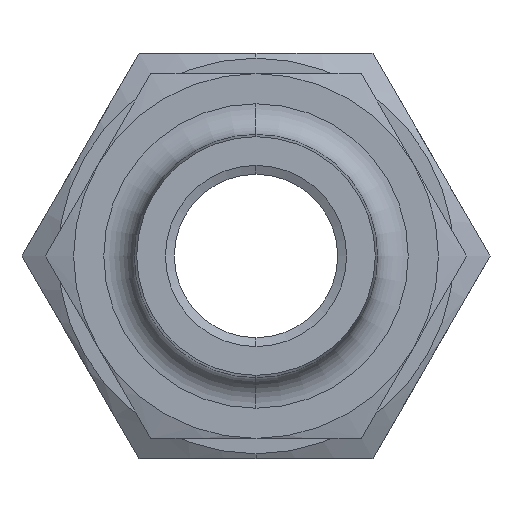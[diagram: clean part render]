
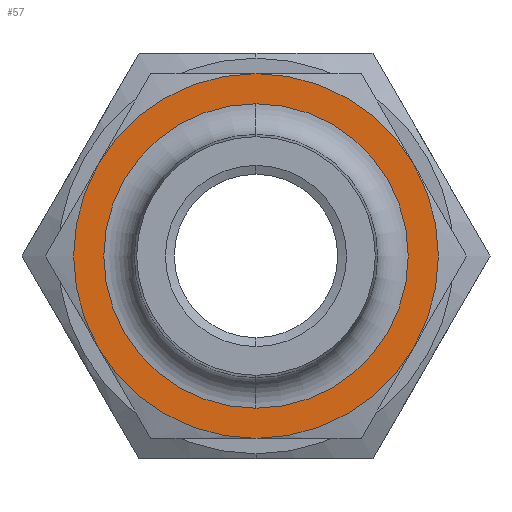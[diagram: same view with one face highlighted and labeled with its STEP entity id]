
A CAD part, left-side view. The second image highlights one B-rep face of the part: STEP entity #57.
In plain terms, the highlighted planar face has unit normal (-1, 0, 0).
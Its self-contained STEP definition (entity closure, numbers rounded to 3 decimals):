
#47 = VERTEX_POINT ( 'NONE', #781 ) ;
#57 = ADVANCED_FACE ( 'NONE', ( #734, #733 ), #736, .F. ) ;
#58 = EDGE_LOOP ( 'NONE', ( #59, #61 ) ) ;
#59 = ORIENTED_EDGE ( 'NONE', *, *, #60, .T. ) ;
#60 = EDGE_CURVE ( 'NONE', #215, #214, #721, .T. ) ;
#61 = ORIENTED_EDGE ( 'NONE', *, *, #213, .T. ) ;
#62 = EDGE_LOOP ( 'NONE', ( #63, #65, #67, #539, #350, #352 ) ) ;
#63 = ORIENTED_EDGE ( 'NONE', *, *, #64, .F. ) ;
#64 = EDGE_CURVE ( 'NONE', #47, #583, #716, .T. ) ;
#65 = ORIENTED_EDGE ( 'NONE', *, *, #66, .F. ) ;
#66 = EDGE_CURVE ( 'NONE', #179, #47, #712, .T. ) ;
#67 = ORIENTED_EDGE ( 'NONE', *, *, #68, .F. ) ;
#68 = EDGE_CURVE ( 'NONE', #599, #179, #707, .T. ) ;
#86 = VERTEX_POINT ( 'NONE', #909 ) ;
#179 = VERTEX_POINT ( 'NONE', #890 ) ;
#213 = EDGE_CURVE ( 'NONE', #214, #215, #1076, .T. ) ;
#214 = VERTEX_POINT ( 'NONE', #1071 ) ;
#215 = VERTEX_POINT ( 'NONE', #1128 ) ;
#349 = EDGE_CURVE ( 'NONE', #86, #599, #1316, .T. ) ;
#350 = ORIENTED_EDGE ( 'NONE', *, *, #351, .T. ) ;
#351 = EDGE_CURVE ( 'NONE', #86, #588, #1303, .T. ) ;
#352 = ORIENTED_EDGE ( 'NONE', *, *, #353, .F. ) ;
#353 = EDGE_CURVE ( 'NONE', #583, #588, #1298, .T. ) ;
#539 = ORIENTED_EDGE ( 'NONE', *, *, #349, .F. ) ;
#583 = VERTEX_POINT ( 'NONE', #1837 ) ;
#588 = VERTEX_POINT ( 'NONE', #1836 ) ;
#599 = VERTEX_POINT ( 'NONE', #1873 ) ;
#703 = DIRECTION ( 'NONE',  ( 0., 0., -1. ) ) ;
#704 = DIRECTION ( 'NONE',  ( 1., 0., 0. ) ) ;
#705 = CARTESIAN_POINT ( 'NONE',  ( 0., 0., 0. ) ) ;
#706 = AXIS2_PLACEMENT_3D ( 'NONE', #705, #704, #703 ) ;
#707 = CIRCLE ( 'NONE', #706, 7.145 ) ;
#708 = DIRECTION ( 'NONE',  ( 0., 0., -1. ) ) ;
#709 = DIRECTION ( 'NONE',  ( 1., 0., 0. ) ) ;
#710 = CARTESIAN_POINT ( 'NONE',  ( 0., 0., 0. ) ) ;
#711 = AXIS2_PLACEMENT_3D ( 'NONE', #710, #709, #708 ) ;
#712 = CIRCLE ( 'NONE', #711, 7.145 ) ;
#713 = DIRECTION ( 'NONE',  ( 0., 0., -1. ) ) ;
#714 = DIRECTION ( 'NONE',  ( 1., 0., 0. ) ) ;
#715 = AXIS2_PLACEMENT_3D ( 'NONE', #722, #714, #713 ) ;
#716 = CIRCLE ( 'NONE', #715, 7.145 ) ;
#717 = DIRECTION ( 'NONE',  ( 0., 0., -1. ) ) ;
#718 = DIRECTION ( 'NONE',  ( 1., 0., 0. ) ) ;
#719 = CARTESIAN_POINT ( 'NONE',  ( 0., 0., 0. ) ) ;
#720 = AXIS2_PLACEMENT_3D ( 'NONE', #719, #718, #717 ) ;
#721 = CIRCLE ( 'NONE', #720, 5.965 ) ;
#722 = CARTESIAN_POINT ( 'NONE',  ( 0., 0., 0. ) ) ;
#723 = DIRECTION ( 'NONE',  ( 0., 0., -1. ) ) ;
#724 = DIRECTION ( 'NONE',  ( 1., 0., 0. ) ) ;
#725 = CARTESIAN_POINT ( 'NONE',  ( 0., 8.25, 0. ) ) ;
#732 = AXIS2_PLACEMENT_3D ( 'NONE', #725, #724, #723 ) ;
#733 = FACE_OUTER_BOUND ( 'NONE', #62, .T. ) ;
#734 = FACE_BOUND ( 'NONE', #58, .T. ) ;
#736 = PLANE ( 'NONE',  #732 ) ;
#781 = CARTESIAN_POINT ( 'NONE',  ( 0., 0., -7.145 ) ) ;
#890 = CARTESIAN_POINT ( 'NONE',  ( 0., -6.188, -3.573 ) ) ;
#909 = CARTESIAN_POINT ( 'NONE',  ( 0., 0., 7.145 ) ) ;
#1067 = DIRECTION ( 'NONE',  ( 0., 0., -1. ) ) ;
#1068 = DIRECTION ( 'NONE',  ( 1., 0., 0. ) ) ;
#1069 = CARTESIAN_POINT ( 'NONE',  ( 0., 0., 0. ) ) ;
#1070 = AXIS2_PLACEMENT_3D ( 'NONE', #1069, #1068, #1067 ) ;
#1071 = CARTESIAN_POINT ( 'NONE',  ( 0., 0., 5.965 ) ) ;
#1076 = CIRCLE ( 'NONE', #1070, 5.965 ) ;
#1128 = CARTESIAN_POINT ( 'NONE',  ( 0., 0., -5.965 ) ) ;
#1294 = DIRECTION ( 'NONE',  ( 0., 0., -1. ) ) ;
#1295 = DIRECTION ( 'NONE',  ( 1., 0., 0. ) ) ;
#1296 = CARTESIAN_POINT ( 'NONE',  ( 0., 0., 0. ) ) ;
#1297 = AXIS2_PLACEMENT_3D ( 'NONE', #1296, #1295, #1294 ) ;
#1298 = CIRCLE ( 'NONE', #1297, 7.145 ) ;
#1299 = DIRECTION ( 'NONE',  ( 0., 0., 1. ) ) ;
#1300 = DIRECTION ( 'NONE',  ( -1., 0., 0. ) ) ;
#1301 = CARTESIAN_POINT ( 'NONE',  ( 0., 0., 0. ) ) ;
#1302 = AXIS2_PLACEMENT_3D ( 'NONE', #1301, #1300, #1299 ) ;
#1303 = CIRCLE ( 'NONE', #1302, 7.145 ) ;
#1313 = DIRECTION ( 'NONE',  ( 0., 0., -1. ) ) ;
#1314 = DIRECTION ( 'NONE',  ( 1., 0., 0. ) ) ;
#1315 = AXIS2_PLACEMENT_3D ( 'NONE', #1323, #1314, #1313 ) ;
#1316 = CIRCLE ( 'NONE', #1315, 7.145 ) ;
#1323 = CARTESIAN_POINT ( 'NONE',  ( 0., 0., 0. ) ) ;
#1836 = CARTESIAN_POINT ( 'NONE',  ( 0., 6.188, 3.573 ) ) ;
#1837 = CARTESIAN_POINT ( 'NONE',  ( 0., 6.188, -3.572 ) ) ;
#1873 = CARTESIAN_POINT ( 'NONE',  ( 0., -6.188, 3.573 ) ) ;
